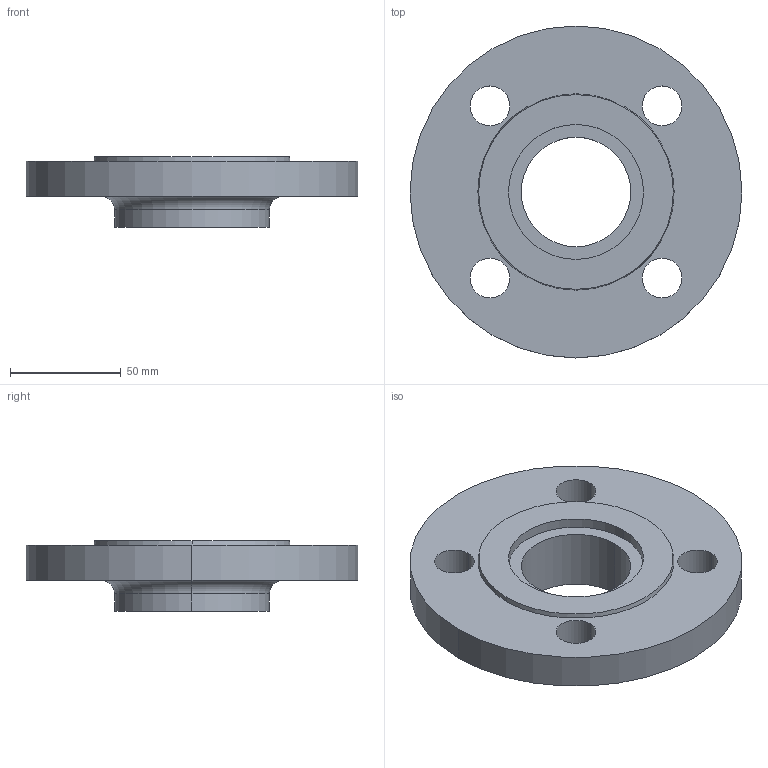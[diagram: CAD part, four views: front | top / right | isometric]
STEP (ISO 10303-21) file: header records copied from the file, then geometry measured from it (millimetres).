
FILE_DESCRIPTION (( 'STEP AP214' ), '1' );
FILE_NAME ('PN40 DN40 Type 12 - Type G Face.STEP', '2018-12-30T01:40:30', ( '' ), ( '' ), 'SwSTEP 2.0', 'SolidWorks 2019', '' );
FILE_SCHEMA (( 'AUTOMOTIVE_DESIGN' ));
Length unit declared in the file: millimetre
Products named in the file (1): PN40 DN40 Type 12 - Type G Face
Bounding box: 150 x 150 x 32 mm (x, y, z)
Volume: 268289 mm3; surface area: 48750.4 mm2
Topology: 1 solids, 1 shells, 25 faces, 58 edges, 38 vertices
Faces by surface type: cylinder 16, plane 5, torus 2, cone 2
Entity records: 790 total; most frequent: DIRECTION 150, CARTESIAN_POINT 122, ORIENTED_EDGE 116, AXIS2_PLACEMENT_3D 66, EDGE_CURVE 58, CIRCLE 40, EDGE_LOOP 38, VERTEX_POINT 38
